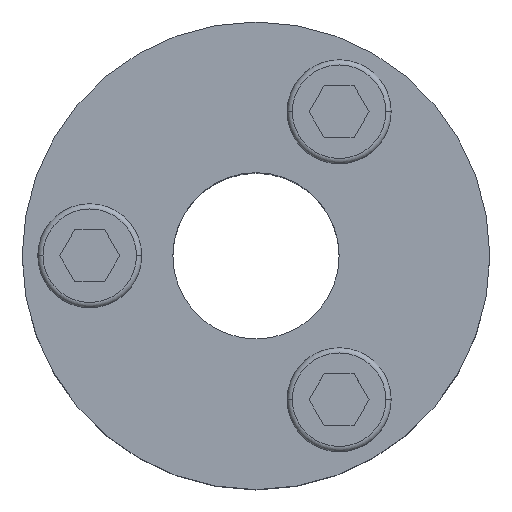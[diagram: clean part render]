
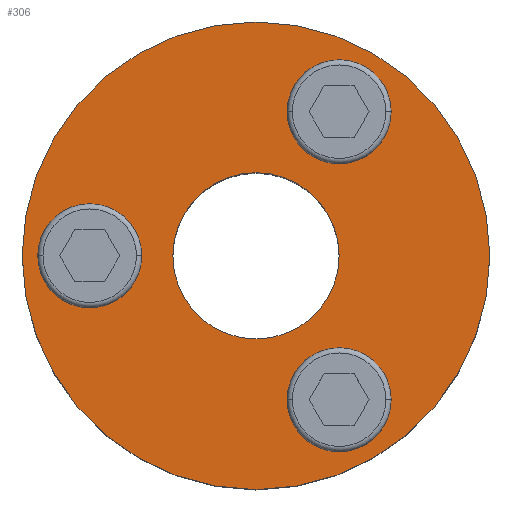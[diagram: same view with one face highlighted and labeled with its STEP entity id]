
A CAD part, top view. The second image highlights one B-rep face of the part: STEP entity #306.
In plain terms, the highlighted planar face has unit normal (0, 0, 1).
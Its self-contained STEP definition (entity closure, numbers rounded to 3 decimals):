
#10 = DIRECTION ( 'NONE',  ( 0., 0., 1. ) ) ;
#15 = AXIS2_PLACEMENT_3D ( 'NONE', #467, #1311, #1299 ) ;
#19 = EDGE_CURVE ( 'NONE', #270, #185, #559, .T. ) ;
#23 = CARTESIAN_POINT ( 'NONE',  ( 0., 0., 0. ) ) ;
#29 = EDGE_LOOP ( 'NONE', ( #695, #757 ) ) ;
#31 = AXIS2_PLACEMENT_3D ( 'NONE', #1326, #597, #176 ) ;
#40 = DIRECTION ( 'NONE',  ( 0., 0., 1. ) ) ;
#51 = CARTESIAN_POINT ( 'NONE',  ( -22.5, 0., 0. ) ) ;
#65 = CARTESIAN_POINT ( 'NONE',  ( 8., 0., 0. ) ) ;
#104 = ORIENTED_EDGE ( 'NONE', *, *, #161, .F. ) ;
#120 = ORIENTED_EDGE ( 'NONE', *, *, #479, .F. ) ;
#121 = AXIS2_PLACEMENT_3D ( 'NONE', #811, #815, #921 ) ;
#148 = FACE_BOUND ( 'NONE', #184, .T. ) ;
#158 = DIRECTION ( 'NONE',  ( 1., 0., 0. ) ) ;
#159 = CARTESIAN_POINT ( 'NONE',  ( 13., 13.856, 0. ) ) ;
#161 = EDGE_CURVE ( 'NONE', #185, #270, #486, .T. ) ;
#176 = DIRECTION ( 'NONE',  ( -1., 0., 0. ) ) ;
#177 = AXIS2_PLACEMENT_3D ( 'NONE', #1257, #10, #424 ) ;
#184 = EDGE_LOOP ( 'NONE', ( #1078, #104 ) ) ;
#185 = VERTEX_POINT ( 'NONE', #653 ) ;
#201 = EDGE_LOOP ( 'NONE', ( #644, #774 ) ) ;
#233 = DIRECTION ( 'NONE',  ( 1., 0., 0. ) ) ;
#238 = DIRECTION ( 'NONE',  ( 0., 0., 1. ) ) ;
#265 = CIRCLE ( 'NONE', #31, 5. ) ;
#266 = VERTEX_POINT ( 'NONE', #477 ) ;
#270 = VERTEX_POINT ( 'NONE', #65 ) ;
#273 = PLANE ( 'NONE',  #15 ) ;
#306 = ADVANCED_FACE ( 'NONE', ( #1185, #955, #1243, #148, #368 ), #273, .F. ) ;
#344 = EDGE_CURVE ( 'NONE', #961, #266, #829, .T. ) ;
#356 = DIRECTION ( 'NONE',  ( -1., 0., 0. ) ) ;
#358 = CARTESIAN_POINT ( 'NONE',  ( 3., 13.856, 0. ) ) ;
#367 = DIRECTION ( 'NONE',  ( 0., 0., 1. ) ) ;
#368 = FACE_OUTER_BOUND ( 'NONE', #201, .T. ) ;
#370 = CARTESIAN_POINT ( 'NONE',  ( -11., 0., 0. ) ) ;
#372 = EDGE_CURVE ( 'NONE', #761, #516, #1104, .T. ) ;
#384 = EDGE_CURVE ( 'NONE', #726, #508, #265, .T. ) ;
#393 = DIRECTION ( 'NONE',  ( 0., 0., 1. ) ) ;
#411 = EDGE_CURVE ( 'NONE', #1121, #1167, #1267, .T. ) ;
#424 = DIRECTION ( 'NONE',  ( 1., 0., 0. ) ) ;
#444 = CIRCLE ( 'NONE', #1178, 5. ) ;
#445 = EDGE_LOOP ( 'NONE', ( #965, #120 ) ) ;
#459 = EDGE_LOOP ( 'NONE', ( #678, #912 ) ) ;
#467 = CARTESIAN_POINT ( 'NONE',  ( -8., 0., 0. ) ) ;
#477 = CARTESIAN_POINT ( 'NONE',  ( 3., -13.856, 0. ) ) ;
#479 = EDGE_CURVE ( 'NONE', #1167, #1121, #444, .T. ) ;
#486 = CIRCLE ( 'NONE', #744, 8. ) ;
#508 = VERTEX_POINT ( 'NONE', #370 ) ;
#516 = VERTEX_POINT ( 'NONE', #51 ) ;
#529 = CIRCLE ( 'NONE', #671, 5. ) ;
#559 = CIRCLE ( 'NONE', #177, 8. ) ;
#596 = AXIS2_PLACEMENT_3D ( 'NONE', #990, #367, #158 ) ;
#597 = DIRECTION ( 'NONE',  ( 0., 0., 1. ) ) ;
#631 = DIRECTION ( 'NONE',  ( -1., 0., 0. ) ) ;
#644 = ORIENTED_EDGE ( 'NONE', *, *, #372, .T. ) ;
#653 = CARTESIAN_POINT ( 'NONE',  ( -8., 0., 0. ) ) ;
#671 = AXIS2_PLACEMENT_3D ( 'NONE', #1016, #393, #913 ) ;
#678 = ORIENTED_EDGE ( 'NONE', *, *, #384, .F. ) ;
#695 = ORIENTED_EDGE ( 'NONE', *, *, #894, .F. ) ;
#726 = VERTEX_POINT ( 'NONE', #1111 ) ;
#744 = AXIS2_PLACEMENT_3D ( 'NONE', #1077, #238, #870 ) ;
#757 = ORIENTED_EDGE ( 'NONE', *, *, #344, .F. ) ;
#761 = VERTEX_POINT ( 'NONE', #1255 ) ;
#774 = ORIENTED_EDGE ( 'NONE', *, *, #1008, .T. ) ;
#811 = CARTESIAN_POINT ( 'NONE',  ( 8., 13.856, 0. ) ) ;
#815 = DIRECTION ( 'NONE',  ( 0., 0., 1. ) ) ;
#829 = CIRCLE ( 'NONE', #1062, 5. ) ;
#870 = DIRECTION ( 'NONE',  ( 1., 0., 0. ) ) ;
#877 = CIRCLE ( 'NONE', #1200, 5. ) ;
#887 = DIRECTION ( 'NONE',  ( -1., 0., 0. ) ) ;
#894 = EDGE_CURVE ( 'NONE', #266, #961, #877, .T. ) ;
#902 = DIRECTION ( 'NONE',  ( 0., 0., 1. ) ) ;
#912 = ORIENTED_EDGE ( 'NONE', *, *, #1232, .F. ) ;
#913 = DIRECTION ( 'NONE',  ( -1., 0., 0. ) ) ;
#921 = DIRECTION ( 'NONE',  ( -1., 0., 0. ) ) ;
#942 = AXIS2_PLACEMENT_3D ( 'NONE', #23, #1260, #233 ) ;
#955 = FACE_BOUND ( 'NONE', #29, .T. ) ;
#961 = VERTEX_POINT ( 'NONE', #1128 ) ;
#965 = ORIENTED_EDGE ( 'NONE', *, *, #411, .F. ) ;
#978 = CARTESIAN_POINT ( 'NONE',  ( 8., 13.856, 0. ) ) ;
#982 = CIRCLE ( 'NONE', #942, 22.5 ) ;
#990 = CARTESIAN_POINT ( 'NONE',  ( 0., 0., 0. ) ) ;
#998 = CARTESIAN_POINT ( 'NONE',  ( 8., -13.856, 0. ) ) ;
#1008 = EDGE_CURVE ( 'NONE', #516, #761, #982, .T. ) ;
#1016 = CARTESIAN_POINT ( 'NONE',  ( -16., 0., 0. ) ) ;
#1041 = CARTESIAN_POINT ( 'NONE',  ( 8., -13.856, 0. ) ) ;
#1062 = AXIS2_PLACEMENT_3D ( 'NONE', #998, #902, #887 ) ;
#1077 = CARTESIAN_POINT ( 'NONE',  ( 0., 0., 0. ) ) ;
#1078 = ORIENTED_EDGE ( 'NONE', *, *, #19, .F. ) ;
#1104 = CIRCLE ( 'NONE', #596, 22.5 ) ;
#1111 = CARTESIAN_POINT ( 'NONE',  ( -21., 0., 0. ) ) ;
#1121 = VERTEX_POINT ( 'NONE', #358 ) ;
#1128 = CARTESIAN_POINT ( 'NONE',  ( 13., -13.856, 0. ) ) ;
#1167 = VERTEX_POINT ( 'NONE', #159 ) ;
#1178 = AXIS2_PLACEMENT_3D ( 'NONE', #978, #40, #356 ) ;
#1185 = FACE_BOUND ( 'NONE', #445, .T. ) ;
#1200 = AXIS2_PLACEMENT_3D ( 'NONE', #1041, #1247, #631 ) ;
#1232 = EDGE_CURVE ( 'NONE', #508, #726, #529, .T. ) ;
#1243 = FACE_BOUND ( 'NONE', #459, .T. ) ;
#1247 = DIRECTION ( 'NONE',  ( 0., 0., 1. ) ) ;
#1255 = CARTESIAN_POINT ( 'NONE',  ( 22.5, 0., 0. ) ) ;
#1257 = CARTESIAN_POINT ( 'NONE',  ( 0., 0., 0. ) ) ;
#1260 = DIRECTION ( 'NONE',  ( 0., 0., 1. ) ) ;
#1267 = CIRCLE ( 'NONE', #121, 5. ) ;
#1299 = DIRECTION ( 'NONE',  ( -1., 0., 0. ) ) ;
#1311 = DIRECTION ( 'NONE',  ( 0., 0., -1. ) ) ;
#1326 = CARTESIAN_POINT ( 'NONE',  ( -16., 0., 0. ) ) ;
